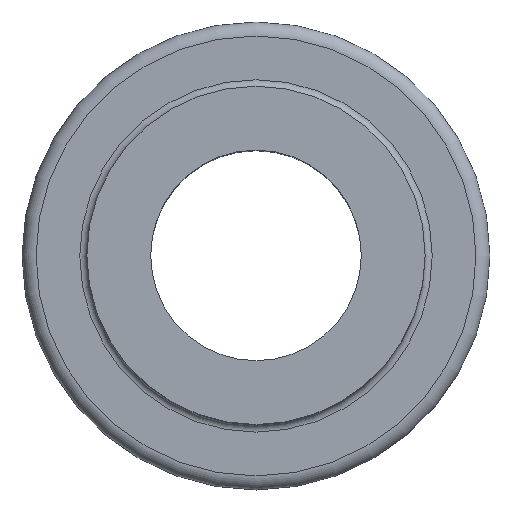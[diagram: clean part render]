
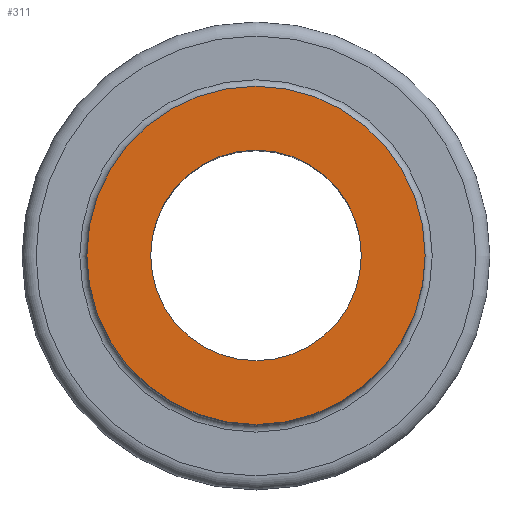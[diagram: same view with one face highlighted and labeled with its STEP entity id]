
A CAD part, top view. The second image highlights one B-rep face of the part: STEP entity #311.
In plain terms, the highlighted planar face has unit normal (0, 0, 1).
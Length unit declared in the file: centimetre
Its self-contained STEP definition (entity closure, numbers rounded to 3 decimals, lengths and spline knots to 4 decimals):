
#109=PLANE('',#347);
#131=VERTEX_POINT('',#469);
#132=VERTEX_POINT('',#472);
#151=CIRCLE('',#346,1.143);
#152=CIRCLE('',#348,1.8364);
#171=EDGE_CURVE('',#131,#131,#151,.T.);
#172=EDGE_CURVE('',#132,#132,#152,.T.);
#206=ORIENTED_EDGE('',*,*,#172,.T.);
#207=ORIENTED_EDGE('',*,*,#171,.F.);
#246=EDGE_LOOP('',(#206));
#247=EDGE_LOOP('',(#207));
#286=FACE_BOUND('',#246,.T.);
#287=FACE_BOUND('',#247,.T.);
#311=ADVANCED_FACE('',(#286,#287),#109,.T.);
#346=AXIS2_PLACEMENT_3D('',#468,#406,#407);
#347=AXIS2_PLACEMENT_3D('',#470,#408,$);
#348=AXIS2_PLACEMENT_3D('',#471,#409,#410);
#406=DIRECTION('',(0.,0.,1.));
#407=DIRECTION('',(0.,1.143,0.));
#408=DIRECTION('',(0.,0.,1.));
#409=DIRECTION('',(0.,0.,1.));
#410=DIRECTION('',(0.,1.836,0.));
#468=CARTESIAN_POINT('',(0.,0.,0.));
#469=CARTESIAN_POINT('',(0.,1.143,0.));
#470=CARTESIAN_POINT('',(0.,1.4734,0.));
#471=CARTESIAN_POINT('',(0.,0.,0.));
#472=CARTESIAN_POINT('',(0.,1.8364,0.));
